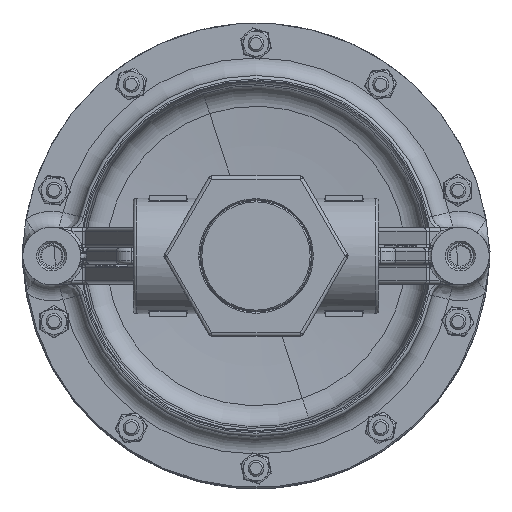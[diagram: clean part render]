
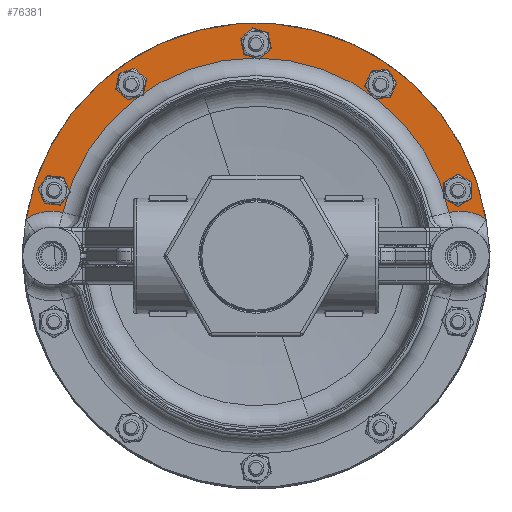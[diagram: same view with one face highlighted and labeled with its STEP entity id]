
A CAD part, front view. The second image highlights one B-rep face of the part: STEP entity #76381.
In plain terms, the highlighted planar face has unit normal (0, -1, 0) as drawn and (0, 0, -1) by its records, which use the part's own axes.
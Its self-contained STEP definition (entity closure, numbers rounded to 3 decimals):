
#9134 = FACE_BOUND ( 'NONE', #19753, .T. ) ;
#9226 = FACE_BOUND ( 'NONE', #19750, .T. ) ;
#9242 = FACE_BOUND ( 'NONE', #19748, .T. ) ;
#9243 = FACE_BOUND ( 'NONE', #19752, .T. ) ;
#9245 = FACE_BOUND ( 'NONE', #19741, .T. ) ;
#9246 = FACE_OUTER_BOUND ( 'NONE', #19754, .T. ) ;
#14776 = CIRCLE ( 'NONE', #55900, 0.161 ) ;
#14808 = CIRCLE ( 'NONE', #55927, 0.161 ) ;
#14826 = CIRCLE ( 'NONE', #55953, 0.161 ) ;
#14843 = CIRCLE ( 'NONE', #55972, 0.161 ) ;
#14860 = CIRCLE ( 'NONE', #55990, 0.161 ) ;
#15167 = CIRCLE ( 'NONE', #56498, 3.632 ) ;
#15170 = CIRCLE ( 'NONE', #56486, 0.161 ) ;
#15171 = CIRCLE ( 'NONE', #56488, 0.161 ) ;
#15172 = CIRCLE ( 'NONE', #56490, 0.161 ) ;
#15173 = CIRCLE ( 'NONE', #56492, 0.161 ) ;
#15174 = CIRCLE ( 'NONE', #56494, 0.161 ) ;
#15175 = CIRCLE ( 'NONE', #56496, 0.7 ) ;
#15177 = CIRCLE ( 'NONE', #56500, 0.7 ) ;
#15178 = CIRCLE ( 'NONE', #56503, 3.09 ) ;
#17597 = CARTESIAN_POINT ( 'NONE',  ( -3.15, -1.024, 0. ) ) ;
#17599 = DIRECTION ( 'NONE',  ( 0., 0., 1. ) ) ;
#17601 = DIRECTION ( 'NONE',  ( 1., 0., 0. ) ) ;
#17738 = CARTESIAN_POINT ( 'NONE',  ( -1.947, -2.68, 0. ) ) ;
#17740 = DIRECTION ( 'NONE',  ( 0., 0., 1. ) ) ;
#17742 = DIRECTION ( 'NONE',  ( 1., 0., 0. ) ) ;
#17871 = CARTESIAN_POINT ( 'NONE',  ( 0., -3.313, 0. ) ) ;
#17873 = DIRECTION ( 'NONE',  ( 0., 0., 1. ) ) ;
#17875 = DIRECTION ( 'NONE',  ( 1., 0., 0. ) ) ;
#19741 = EDGE_LOOP ( 'NONE', ( #23472, #23474 ) ) ;
#19748 = EDGE_LOOP ( 'NONE', ( #23476, #23478 ) ) ;
#19750 = EDGE_LOOP ( 'NONE', ( #23468, #23470 ) ) ;
#19752 = EDGE_LOOP ( 'NONE', ( #23481, #23483 ) ) ;
#19753 = EDGE_LOOP ( 'NONE', ( #23485, #23487 ) ) ;
#19754 = EDGE_LOOP ( 'NONE', ( #23489, #23491, #23494, #23496 ) ) ;
#20067 = CARTESIAN_POINT ( 'NONE',  ( 1.947, -2.68, 0. ) ) ;
#20068 = DIRECTION ( 'NONE',  ( 0., 0., 1. ) ) ;
#20069 = DIRECTION ( 'NONE',  ( 1., 0., 0. ) ) ;
#20135 = CARTESIAN_POINT ( 'NONE',  ( 3.15, -1.024, 0. ) ) ;
#20136 = DIRECTION ( 'NONE',  ( 0., 0., 1. ) ) ;
#20137 = DIRECTION ( 'NONE',  ( 1., 0., 0. ) ) ;
#21067 = EDGE_CURVE ( 'NONE', #80799, #80797, #14776, .T. ) ;
#21088 = EDGE_CURVE ( 'NONE', #80759, #80758, #14808, .T. ) ;
#21108 = EDGE_CURVE ( 'NONE', #80725, #80724, #14826, .T. ) ;
#21129 = EDGE_CURVE ( 'NONE', #80704, #80703, #14843, .T. ) ;
#21150 = EDGE_CURVE ( 'NONE', #80683, #80682, #14860, .T. ) ;
#21429 = EDGE_CURVE ( 'NONE', #80682, #80683, #15170, .T. ) ;
#21430 = EDGE_CURVE ( 'NONE', #80703, #80704, #15171, .T. ) ;
#21431 = EDGE_CURVE ( 'NONE', #80724, #80725, #15172, .T. ) ;
#21432 = EDGE_CURVE ( 'NONE', #80758, #80759, #15173, .T. ) ;
#21433 = EDGE_CURVE ( 'NONE', #80797, #80799, #15174, .T. ) ;
#21434 = EDGE_CURVE ( 'NONE', #82081, #82094, #15175, .T. ) ;
#21435 = EDGE_CURVE ( 'NONE', #82094, #82098, #15167, .T. ) ;
#21436 = EDGE_CURVE ( 'NONE', #82098, #82096, #15177, .T. ) ;
#21437 = EDGE_CURVE ( 'NONE', #82096, #82081, #15178, .T. ) ;
#23468 = ORIENTED_EDGE ( 'NONE', *, *, #21150, .T. ) ;
#23470 = ORIENTED_EDGE ( 'NONE', *, *, #21429, .T. ) ;
#23472 = ORIENTED_EDGE ( 'NONE', *, *, #21129, .T. ) ;
#23474 = ORIENTED_EDGE ( 'NONE', *, *, #21430, .T. ) ;
#23476 = ORIENTED_EDGE ( 'NONE', *, *, #21108, .T. ) ;
#23478 = ORIENTED_EDGE ( 'NONE', *, *, #21431, .T. ) ;
#23481 = ORIENTED_EDGE ( 'NONE', *, *, #21088, .T. ) ;
#23483 = ORIENTED_EDGE ( 'NONE', *, *, #21432, .T. ) ;
#23485 = ORIENTED_EDGE ( 'NONE', *, *, #21067, .T. ) ;
#23487 = ORIENTED_EDGE ( 'NONE', *, *, #21433, .T. ) ;
#23489 = ORIENTED_EDGE ( 'NONE', *, *, #21434, .T. ) ;
#23491 = ORIENTED_EDGE ( 'NONE', *, *, #21435, .T. ) ;
#23494 = ORIENTED_EDGE ( 'NONE', *, *, #21436, .T. ) ;
#23496 = ORIENTED_EDGE ( 'NONE', *, *, #21437, .T. ) ;
#34646 = CARTESIAN_POINT ( 'NONE',  ( 3.15, -1.024, 0. ) ) ;
#34650 = DIRECTION ( 'NONE',  ( 0., 0., 1. ) ) ;
#34654 = DIRECTION ( 'NONE',  ( 1., 0., 0. ) ) ;
#34660 = CARTESIAN_POINT ( 'NONE',  ( 1.947, -2.68, 0. ) ) ;
#34663 = DIRECTION ( 'NONE',  ( 0., 0., 1. ) ) ;
#34667 = DIRECTION ( 'NONE',  ( 1., 0., 0. ) ) ;
#34674 = CARTESIAN_POINT ( 'NONE',  ( 0., -3.313, 0. ) ) ;
#34678 = DIRECTION ( 'NONE',  ( 0., 0., 1. ) ) ;
#34682 = DIRECTION ( 'NONE',  ( 1., 0., 0. ) ) ;
#34690 = CARTESIAN_POINT ( 'NONE',  ( -1.947, -2.68, 0. ) ) ;
#34694 = DIRECTION ( 'NONE',  ( 0., 0., 1. ) ) ;
#34697 = DIRECTION ( 'NONE',  ( 1., 0., 0. ) ) ;
#34705 = CARTESIAN_POINT ( 'NONE',  ( -3.15, -1.024, 0. ) ) ;
#34709 = DIRECTION ( 'NONE',  ( 0., 0., 1. ) ) ;
#34712 = DIRECTION ( 'NONE',  ( 1., 0., 0. ) ) ;
#34720 = CARTESIAN_POINT ( 'NONE',  ( 3.188, 0., 0. ) ) ;
#34724 = DIRECTION ( 'NONE',  ( 0., 0., 1. ) ) ;
#34727 = DIRECTION ( 'NONE',  ( 1., 0., 0. ) ) ;
#34735 = CARTESIAN_POINT ( 'NONE',  ( 0., 0., 0. ) ) ;
#34738 = DIRECTION ( 'NONE',  ( 0., 0., -1. ) ) ;
#34742 = DIRECTION ( 'NONE',  ( 1., 0., 0. ) ) ;
#34749 = CARTESIAN_POINT ( 'NONE',  ( -3.188, 0., 0. ) ) ;
#34753 = DIRECTION ( 'NONE',  ( 0., 0., 1. ) ) ;
#34757 = DIRECTION ( 'NONE',  ( 1., 0., 0. ) ) ;
#34764 = CARTESIAN_POINT ( 'NONE',  ( 0., 0., 0. ) ) ;
#34767 = DIRECTION ( 'NONE',  ( 0., 0., 1. ) ) ;
#34771 = DIRECTION ( 'NONE',  ( 1., 0., 0. ) ) ;
#35126 = DIRECTION ( 'NONE',  ( 0., 0., 1. ) ) ;
#35153 = PLANE ( 'NONE',  #70563 ) ;
#35156 = CARTESIAN_POINT ( 'NONE',  ( 0., 3.688, 0. ) ) ;
#35162 = DIRECTION ( 'NONE',  ( 1., 0., 0. ) ) ;
#41763 = CARTESIAN_POINT ( 'NONE',  ( 3.311, -1.024, 0. ) ) ;
#41765 = CARTESIAN_POINT ( 'NONE',  ( 2.99, -1.024, 0. ) ) ;
#41818 = CARTESIAN_POINT ( 'NONE',  ( 2.108, -2.68, 0. ) ) ;
#41820 = CARTESIAN_POINT ( 'NONE',  ( 1.786, -2.68, 0. ) ) ;
#41871 = CARTESIAN_POINT ( 'NONE',  ( 0.161, -3.313, 0. ) ) ;
#41873 = CARTESIAN_POINT ( 'NONE',  ( -0.161, -3.313, 0. ) ) ;
#41920 = CARTESIAN_POINT ( 'NONE',  ( -1.786, -2.68, 0. ) ) ;
#41922 = CARTESIAN_POINT ( 'NONE',  ( -2.108, -2.68, 0. ) ) ;
#41967 = CARTESIAN_POINT ( 'NONE',  ( -2.99, -1.024, 0. ) ) ;
#41969 = CARTESIAN_POINT ( 'NONE',  ( -3.311, -1.024, 0. ) ) ;
#44481 = CARTESIAN_POINT ( 'NONE',  ( 3.015, -0.678, 0. ) ) ;
#44493 = CARTESIAN_POINT ( 'NONE',  ( 3.587, -0.575, 0. ) ) ;
#44495 = CARTESIAN_POINT ( 'NONE',  ( -3.015, -0.678, 0. ) ) ;
#44497 = CARTESIAN_POINT ( 'NONE',  ( -3.587, -0.575, 0. ) ) ;
#55900 = AXIS2_PLACEMENT_3D ( 'NONE', #17597, #17599, #17601 ) ;
#55927 = AXIS2_PLACEMENT_3D ( 'NONE', #17738, #17740, #17742 ) ;
#55953 = AXIS2_PLACEMENT_3D ( 'NONE', #17871, #17873, #17875 ) ;
#55972 = AXIS2_PLACEMENT_3D ( 'NONE', #20067, #20068, #20069 ) ;
#55990 = AXIS2_PLACEMENT_3D ( 'NONE', #20135, #20136, #20137 ) ;
#56486 = AXIS2_PLACEMENT_3D ( 'NONE', #34646, #34650, #34654 ) ;
#56488 = AXIS2_PLACEMENT_3D ( 'NONE', #34660, #34663, #34667 ) ;
#56490 = AXIS2_PLACEMENT_3D ( 'NONE', #34674, #34678, #34682 ) ;
#56492 = AXIS2_PLACEMENT_3D ( 'NONE', #34690, #34694, #34697 ) ;
#56494 = AXIS2_PLACEMENT_3D ( 'NONE', #34705, #34709, #34712 ) ;
#56496 = AXIS2_PLACEMENT_3D ( 'NONE', #34720, #34724, #34727 ) ;
#56498 = AXIS2_PLACEMENT_3D ( 'NONE', #34735, #34738, #34742 ) ;
#56500 = AXIS2_PLACEMENT_3D ( 'NONE', #34749, #34753, #34757 ) ;
#56503 = AXIS2_PLACEMENT_3D ( 'NONE', #34764, #34767, #34771 ) ;
#70563 = AXIS2_PLACEMENT_3D ( 'NONE', #35156, #35126, #35162 ) ;
#76381 = ADVANCED_FACE ( 'NONE', ( #9226, #9245, #9242, #9243, #9134, #9246 ), #35153, .F. ) ;
#80682 = VERTEX_POINT ( 'NONE', #41763 ) ;
#80683 = VERTEX_POINT ( 'NONE', #41765 ) ;
#80703 = VERTEX_POINT ( 'NONE', #41818 ) ;
#80704 = VERTEX_POINT ( 'NONE', #41820 ) ;
#80724 = VERTEX_POINT ( 'NONE', #41871 ) ;
#80725 = VERTEX_POINT ( 'NONE', #41873 ) ;
#80758 = VERTEX_POINT ( 'NONE', #41920 ) ;
#80759 = VERTEX_POINT ( 'NONE', #41922 ) ;
#80797 = VERTEX_POINT ( 'NONE', #41967 ) ;
#80799 = VERTEX_POINT ( 'NONE', #41969 ) ;
#82081 = VERTEX_POINT ( 'NONE', #44481 ) ;
#82094 = VERTEX_POINT ( 'NONE', #44493 ) ;
#82096 = VERTEX_POINT ( 'NONE', #44495 ) ;
#82098 = VERTEX_POINT ( 'NONE', #44497 ) ;
